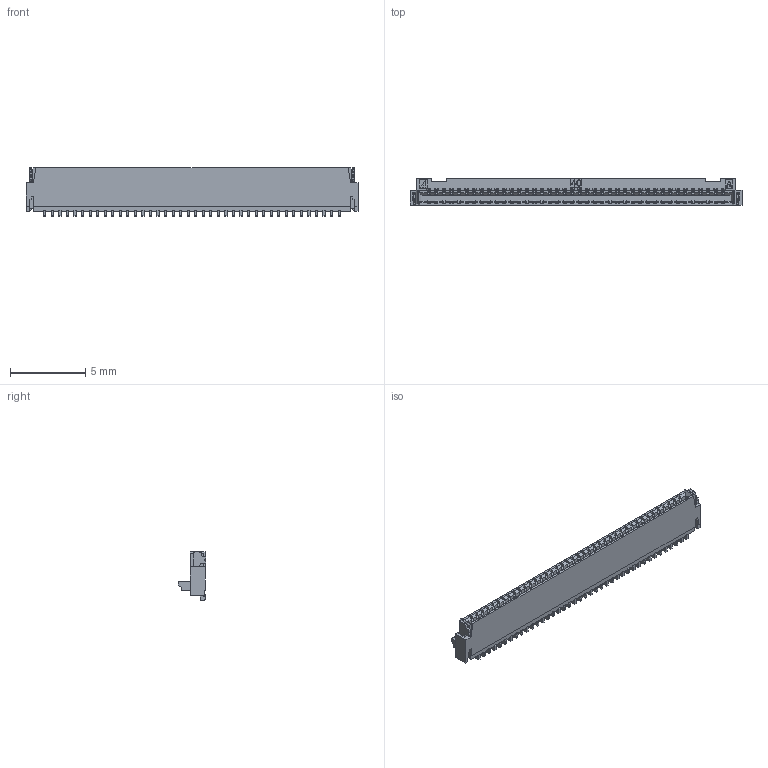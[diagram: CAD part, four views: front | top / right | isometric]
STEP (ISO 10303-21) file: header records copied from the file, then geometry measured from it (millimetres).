
FILE_DESCRIPTION((''),'2;1');
FILE_NAME('S-52506-040XX-XXX','2019-03-19T',('t00382'),(''),'PRO/ENGINEER BY PARAMETRIC TECHNOLOGY CORPORATION, 2011490','PRO/ENGINEER BY PARAMETRIC TECHNOLOGY CORPORATION, 2011490','');
FILE_SCHEMA(('AUTOMOTIVE_DESIGN { 1 0 10303 214 1 1 1 1 }'));
Products named in the file (1): S-52506-040XX-XXX
Bounding box: 22 x 1.8 x 3.22 mm (x, y, z)
Volume: 54.1 mm3; surface area: 345.5 mm2
Topology: 1 solids, 1 shells, 3713 faces, 11251 edges, 7556 vertices
Faces by surface type: plane 2933, cylinder 780
Entity records: 148411 total; most frequent: CARTESIAN_POINT 22345, ORIENTED_EDGE 22156, DIRECTION 20319, EDGE_CURVE 11078, VECTOR 9611, LINE 9611, VERTEX_POINT 7378, AXIS2_PLACEMENT_3D 5354
